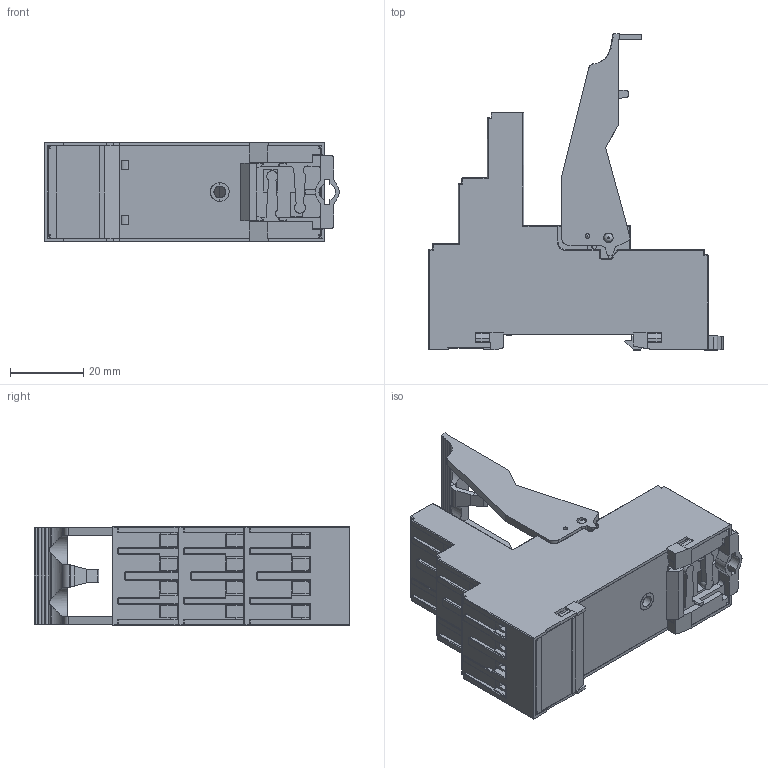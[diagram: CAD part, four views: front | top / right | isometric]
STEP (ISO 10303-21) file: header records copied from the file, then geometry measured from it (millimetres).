
FILE_DESCRIPTION(('STEP AP214'),'2;1');
FILE_NAME('94943_zoccolo+094913-catalogo.stp','2010-09-17T12:13:09',(''),(''),'2007.1.106','THINKDESIGN','');
FILE_SCHEMA(('AUTOMOTIVE_DESIGN'));
Products named in the file (1): None
Bounding box: 80.33 x 86.24 x 27 mm (x, y, z)
Surface area: 29013.3 mm2 (no closed solid volume)
Topology: 0 solids, 0 shells, 1242 faces, 6939 edges, 6928 vertices
Faces by surface type: plane 811, cylinder 330, bspline 101
Full cylindrical faces by diameter (mm): 1.2 x4, 1.3 x2, 2.5 x2, 2.6 x2, 3.2 x1, 3.6 x1, 4.7 x14, 5.3 x14
Entity records: 75296 total; most frequent: CARTESIAN_POINT 25596, DIRECTION 8681, COMPOSITE_CURVE_SEGMENT 6818, TRIMMED_CURVE 5690, VECTOR 5069, LINE 5069, AXIS2_PLACEMENT_3D 1806, STYLED_ITEM 1289
